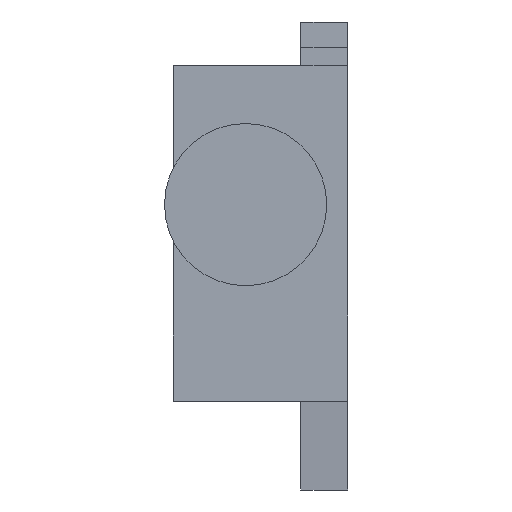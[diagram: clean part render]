
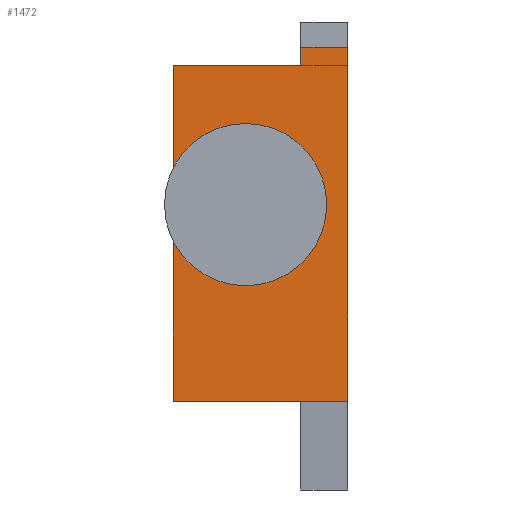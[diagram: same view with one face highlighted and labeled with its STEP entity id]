
A CAD part, left-side view. The second image highlights one B-rep face of the part: STEP entity #1472.
In plain terms, the highlighted planar face has unit normal (-1, 0, 0).
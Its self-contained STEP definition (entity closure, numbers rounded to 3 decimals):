
#227 = ORIENTED_EDGE ( 'NONE', *, *, #1673, .F. ) ;
#228 = ORIENTED_EDGE ( 'NONE', *, *, #1634, .T. ) ;
#229 = ORIENTED_EDGE ( 'NONE', *, *, #1659, .F. ) ;
#230 = ORIENTED_EDGE ( 'NONE', *, *, #1607, .F. ) ;
#259 = ORIENTED_EDGE ( 'NONE', *, *, #1658, .F. ) ;
#260 = ORIENTED_EDGE ( 'NONE', *, *, #1669, .T. ) ;
#261 = ORIENTED_EDGE ( 'NONE', *, *, #1605, .T. ) ;
#262 = ORIENTED_EDGE ( 'NONE', *, *, #1645, .F. ) ;
#307 = CARTESIAN_POINT ( 'NONE',  ( -1449., 12., -0.4 ) ) ;
#321 = CARTESIAN_POINT ( 'NONE',  ( -1449., 5.5, 11. ) ) ;
#322 = CARTESIAN_POINT ( 'NONE',  ( -1449., 0., -28.541 ) ) ;
#326 = CARTESIAN_POINT ( 'NONE',  ( -1449., 20.5, 11. ) ) ;
#328 = CARTESIAN_POINT ( 'NONE',  ( -1449., 5.5, 13.1 ) ) ;
#331 = CARTESIAN_POINT ( 'NONE',  ( -1449., 20.5, -28.541 ) ) ;
#332 = CARTESIAN_POINT ( 'NONE',  ( -1449., 0., 13.1 ) ) ;
#337 = CARTESIAN_POINT ( 'NONE',  ( -1449., 20.5, -28.541 ) ) ;
#338 = PLANE ( 'NONE',  #1717 ) ;
#342 = DIRECTION ( 'NONE',  ( 1., 0., 0. ) ) ;
#343 = DIRECTION ( 'NONE',  ( 0., 0., 1. ) ) ;
#720 = CARTESIAN_POINT ( 'NONE',  ( -1449., 20.5, -28.541 ) ) ;
#721 = DIRECTION ( 'NONE',  ( 0., -1., 0. ) ) ;
#722 = CARTESIAN_POINT ( 'NONE',  ( -1449., 12., -5.4 ) ) ;
#724 = DIRECTION ( 'NONE',  ( -1., 0., 0. ) ) ;
#725 = DIRECTION ( 'NONE',  ( 0., 0., 1. ) ) ;
#787 = CARTESIAN_POINT ( 'NONE',  ( -1449., 5.5, -28.541 ) ) ;
#788 = DIRECTION ( 'NONE',  ( 0., 0., -1. ) ) ;
#811 = CARTESIAN_POINT ( 'NONE',  ( -1449., 0., -28.541 ) ) ;
#815 = DIRECTION ( 'NONE',  ( 0., 0., -1. ) ) ;
#834 = CARTESIAN_POINT ( 'NONE',  ( -1449., 20.5, 11. ) ) ;
#843 = CARTESIAN_POINT ( 'NONE',  ( -1449., 12., -5.4 ) ) ;
#844 = DIRECTION ( 'NONE',  ( 0., -1., 0. ) ) ;
#846 = DIRECTION ( 'NONE',  ( -1., 0., 0. ) ) ;
#847 = DIRECTION ( 'NONE',  ( 0., 0., 1. ) ) ;
#864 = CARTESIAN_POINT ( 'NONE',  ( -1449., 20.5, -28.541 ) ) ;
#866 = DIRECTION ( 'NONE',  ( 0., 0., -1. ) ) ;
#876 = CARTESIAN_POINT ( 'NONE',  ( -1449., 5.5, 13.1 ) ) ;
#877 = DIRECTION ( 'NONE',  ( 0., -1., 0. ) ) ;
#1066 = VERTEX_POINT ( 'NONE', #1181 ) ;
#1153 = VERTEX_POINT ( 'NONE', #307 ) ;
#1167 = VERTEX_POINT ( 'NONE', #321 ) ;
#1168 = VERTEX_POINT ( 'NONE', #322 ) ;
#1172 = VERTEX_POINT ( 'NONE', #326 ) ;
#1174 = VERTEX_POINT ( 'NONE', #328 ) ;
#1177 = VERTEX_POINT ( 'NONE', #331 ) ;
#1178 = VERTEX_POINT ( 'NONE', #332 ) ;
#1181 = CARTESIAN_POINT ( 'NONE',  ( -1449., 12., -10.4 ) ) ;
#1283 = EDGE_LOOP ( 'NONE', ( #259, #260, #261, #262, #227, #228 ) ) ;
#1289 = EDGE_LOOP ( 'NONE', ( #229, #230 ) ) ;
#1346 = FACE_OUTER_BOUND ( 'NONE', #1283, .T. ) ;
#1354 = FACE_BOUND ( 'NONE', #1289, .T. ) ;
#1472 = ADVANCED_FACE ( 'NONE', ( #1346, #1354 ), #338, .F. ) ;
#1605 = EDGE_CURVE ( 'NONE', #1177, #1168, #1926, .T. ) ;
#1607 = EDGE_CURVE ( 'NONE', #1066, #1153, #1932, .T. ) ;
#1634 = EDGE_CURVE ( 'NONE', #1174, #1167, #1974, .T. ) ;
#1645 = EDGE_CURVE ( 'NONE', #1178, #1168, #1986, .T. ) ;
#1658 = EDGE_CURVE ( 'NONE', #1172, #1167, #2013, .T. ) ;
#1659 = EDGE_CURVE ( 'NONE', #1153, #1066, #2019, .T. ) ;
#1669 = EDGE_CURVE ( 'NONE', #1172, #1177, #2017, .T. ) ;
#1673 = EDGE_CURVE ( 'NONE', #1174, #1178, #2035, .T. ) ;
#1717 = AXIS2_PLACEMENT_3D ( 'NONE', #337, #342, #343 ) ;
#1802 = AXIS2_PLACEMENT_3D ( 'NONE', #722, #724, #725 ) ;
#1819 = AXIS2_PLACEMENT_3D ( 'NONE', #843, #846, #847 ) ;
#1926 = LINE ( 'NONE', #720, #1927 ) ;
#1927 = VECTOR ( 'NONE', #721, 1000. ) ;
#1932 = CIRCLE ( 'NONE', #1802, 5. ) ;
#1974 = LINE ( 'NONE', #787, #1975 ) ;
#1975 = VECTOR ( 'NONE', #788, 1000. ) ;
#1986 = LINE ( 'NONE', #811, #1992 ) ;
#1992 = VECTOR ( 'NONE', #815, 1000. ) ;
#2013 = LINE ( 'NONE', #834, #2015 ) ;
#2015 = VECTOR ( 'NONE', #844, 1000. ) ;
#2017 = LINE ( 'NONE', #864, #2034 ) ;
#2019 = CIRCLE ( 'NONE', #1819, 5. ) ;
#2033 = VECTOR ( 'NONE', #877, 1000. ) ;
#2034 = VECTOR ( 'NONE', #866, 1000. ) ;
#2035 = LINE ( 'NONE', #876, #2033 ) ;
